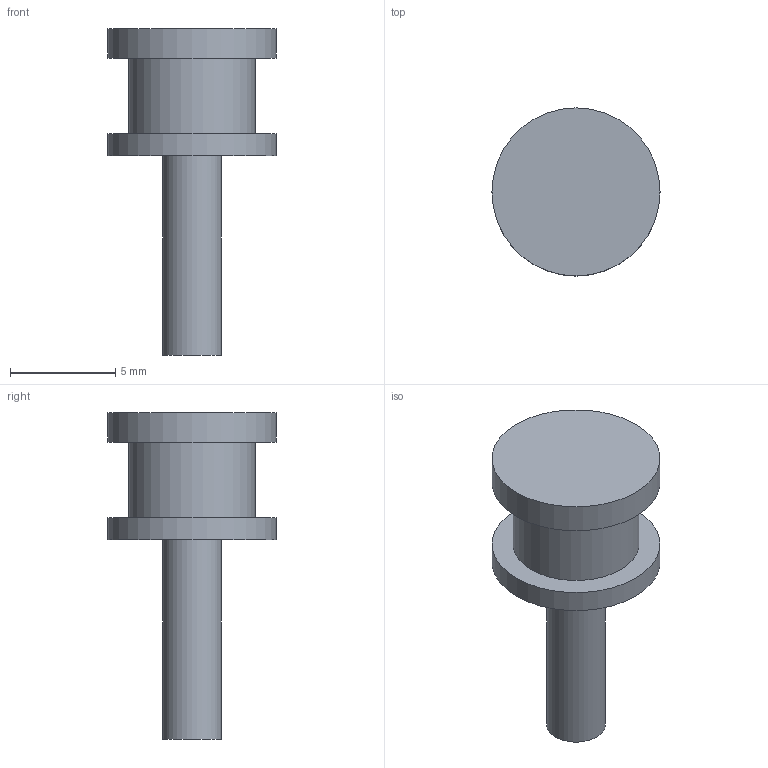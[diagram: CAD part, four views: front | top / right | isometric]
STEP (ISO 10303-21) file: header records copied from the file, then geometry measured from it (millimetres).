
FILE_DESCRIPTION(('Open CASCADE Model'),'2;1');
FILE_NAME('Open CASCADE Shape Model','2026-11-19T15:07:55',('Author'),( 'Open CASCADE'),'Open CASCADE STEP processor 8.0','Open CASCADE 8.0' ,'Unknown');
FILE_SCHEMA(('AUTOMOTIVE_DESIGN { 1 0 10303 214 1 1 1 1 }'));
Length unit declared in the file: millimetre
Products named in the file (1): Open CASCADE STEP translator 8.0 6
Bounding box: 8 x 8 x 15.55 mm (x, y, z)
Volume: 283.4 mm3; surface area: 357.5 mm2
Topology: 1 solids, 1 shells, 10 faces, 13 edges, 9 vertices
Faces by surface type: plane 6, cylinder 4
Full cylindrical faces by diameter (mm): 2.8 x1, 6 x1, 8 x2
Entity records: 393 total; most frequent: DIRECTION 70, CARTESIAN_POINT 59, ORIENTED_EDGE 26, PCURVE 26, DEFINITIONAL_REPRESENTATION 26, AXIS2_PLACEMENT_3D 20, LINE 20, VECTOR 20
